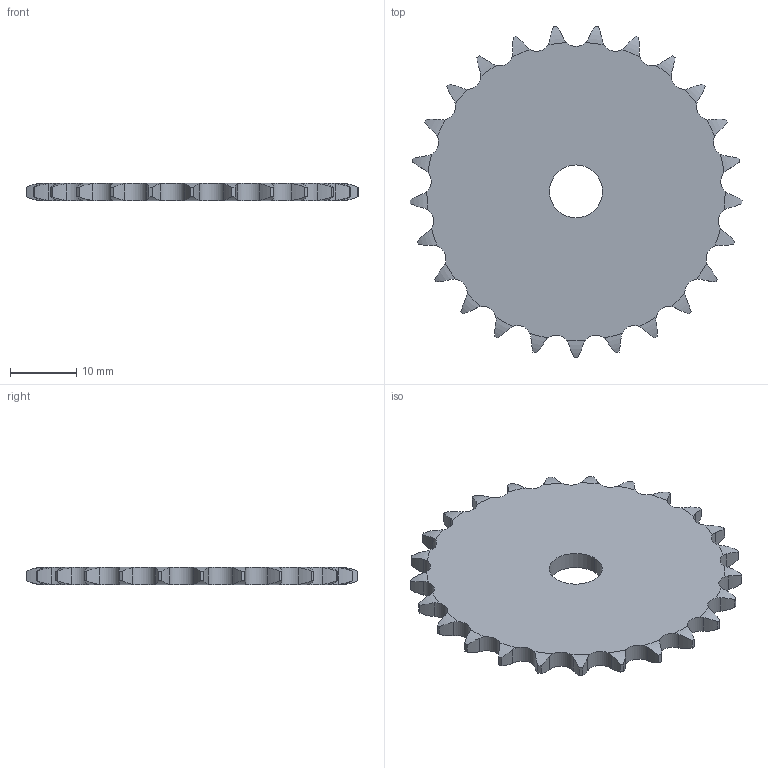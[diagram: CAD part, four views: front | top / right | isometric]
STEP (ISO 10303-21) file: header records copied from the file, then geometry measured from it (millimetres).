
FILE_DESCRIPTION((''),'2;1');
FILE_NAME('500-061-0025_PRT','2021-02-12T',('Brieden'),('Brieden'),'PRO/ENGINEER BY PARAMETRIC TECHNOLOGY CORPORATION, 2010160','PRO/ENGINEER BY PARAMETRIC TECHNOLOGY CORPORATION, 2010160','');
FILE_SCHEMA(('AUTOMOTIVE_DESIGN { 1 0 10303 214 1 1 1 1 }'));
Length unit declared in the file: millimetre
Products named in the file (1): 500-061-0025_PRT
Bounding box: 50.13 x 50.03 x 2.6 mm (x, y, z)
Volume: 4187.1 mm3; surface area: 3851.3 mm2
Topology: 1 solids, 1 shells, 154 faces, 456 edges, 304 vertices
Faces by surface type: cylinder 102, torus 50, plane 2
Entity records: 7162 total; most frequent: CARTESIAN_POINT 1843, ORIENTED_EDGE 912, DIRECTION 718, PRESENTATION_STYLE_ASSIGNMENT 457, STYLED_ITEM 457, CURVE_STYLE 456, EDGE_CURVE 456, AXIS2_PLACEMENT_3D 308
